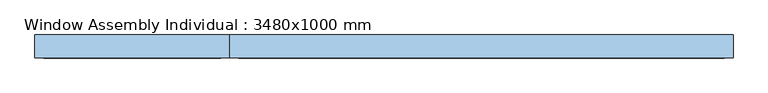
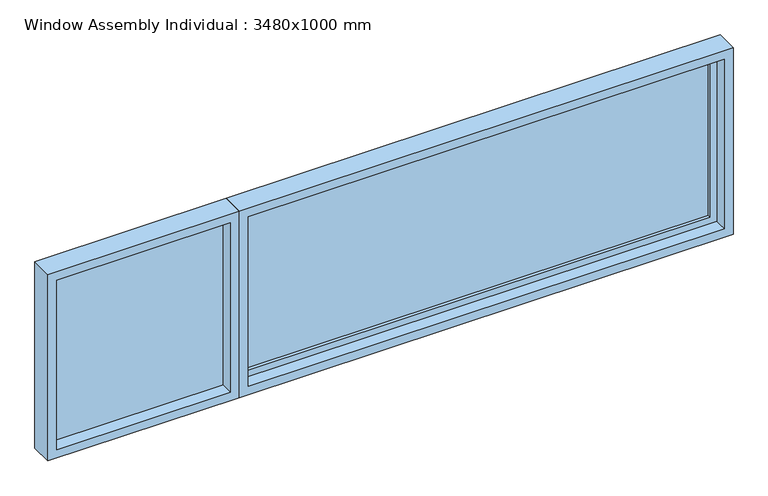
"""IFC4 building model written with IfcOpenShell, lengths in millimetres: window geometry, Window Assembly Individual : 3480x1000 mm."""

from ifc_helpers import new_model, si_unit, frame, origin, place, context, project, spatial, polyline, outline, extrude, faceted_brep, source, transform, mapped, element, save


def window_assembly_individual_3480x1000_mm_c786019a(model_context):
    return source(origin(), model_context, "Body", "SolidModel", [
        extrude(outline(polyline([(830.0, -738.0), (830.0, 1710.0), (1770.0, 1710.0), (1770.0, -738.0), (830.0, -738.0)]), holes=[polyline([(1720.0, -688.0), (1720.0, 1660.0), (880.0, 1660.0), (880.0, -688.0), (1720.0, -688.0)])]), frame((0.0, 140.0, 0.0), z_axis=(0.0, 1.0, 0.0), x_axis=(0.0, 0.0, 1.0)), (0.0, 0.0, 1.0), 50.0),
        extrude(outline(polyline([(1660.0, 155.0), (-688.0, 155.0), (-688.0, 175.0), (1660.0, 175.0), (1660.0, 155.0)])), frame((0.0, 0.0, 880.0), z_axis=(0.0, 0.0, 1.0), x_axis=(1.0, 0.0, 0.0)), (0.0, 0.0, 1.0), 840.0),
        faceted_brep([(1695.0, 75.0, 1755.0), (1695.0, 140.0, 1755.0), (1695.0, 140.0, 845.0), (1695.0, 75.0, 845.0), (1710.0, 140.0, 830.0), (-738.0, 140.0, 830.0), (-738.0, 140.0, 1770.0), (1710.0, 140.0, 1770.0), (-723.0, 140.0, 1755.0), (-723.0, 140.0, 845.0), (-723.0, 75.0, 845.0), (1740.0, 75.0, 1800.0), (-768.0, 75.0, 1800.0), (-768.0, 75.0, 800.0), (1740.0, 75.0, 800.0), (-723.0, 75.0, 1755.0), (1740.0, 190.0, 1800.0), (1740.0, 190.0, 800.0), (-768.0, 190.0, 800.0), (-768.0, 190.0, 1800.0), (1710.0, 190.0, 1770.0), (-738.0, 190.0, 1770.0), (-738.0, 190.0, 830.0), (1710.0, 190.0, 830.0)], [[[0, 1, 2, 3]], [[4, 5, 6, 7], [1, 8, 9, 2]], [[3, 2, 9, 10]], [[11, 12, 13, 14], [3, 10, 15, 0]], [[16, 11, 14, 17]], [[17, 14, 13, 18]], [[17, 18, 19, 16], [20, 21, 22, 23]], [[10, 9, 8, 15]], [[18, 13, 12, 19]], [[5, 22, 21, 6]], [[4, 23, 22, 5]], [[7, 20, 23, 4]], [[15, 8, 1, 0]], [[19, 12, 11, 16]], [[6, 21, 20, 7]]]),
        extrude(outline(polyline([(-813.0, 140.0), (-1695.0, 140.0), (-1695.0, 162.0), (-813.0, 162.0), (-813.0, 140.0)])), frame((0.0, 0.0, 845.0), z_axis=(0.0, 0.0, 1.0), x_axis=(1.0, 0.0, 0.0)), (0.0, 0.0, 1.0), 910.0),
        extrude(outline(polyline([(1800.0, -768.0), (1800.0, -1740.0), (800.0, -1740.0), (800.0, -768.0), (1800.0, -768.0)]), holes=[polyline([(845.0, -813.0), (845.0, -1695.0), (1755.0, -1695.0), (1755.0, -813.0), (845.0, -813.0)])]), frame((0.0, 75.0, 0.0), z_axis=(0.0, 1.0, 0.0), x_axis=(0.0, 0.0, 1.0)), (0.0, 0.0, 1.0), 115.0),
    ])


if __name__ == "__main__":
    model = new_model("IFC4")
    model_context = context("Model", 3, world=origin())
    ifc_project = project(units=[si_unit("LENGTHUNIT", "METRE", prefix="MILLI")], contexts=[model_context])
    site = spatial("IfcSite", under=ifc_project)
    building = spatial("IfcBuilding", under=site)
    placement = place(None, origin())
    window_assembly_individual_3480x1000_mm_shape = window_assembly_individual_3480x1000_mm_c786019a(model_context)
    element("IfcWindow", 1, ObjectType="Window Assembly Individual : 3480x1000 mm", at=placement, inside=building, context=model_context, shape_type="MappedRepresentation", body=[
        mapped(window_assembly_individual_3480x1000_mm_shape, transform((0.0, 0.0, 0.0), x_axis=(1.0, 0.0, 0.0), y_axis=(0.0, 1.0, 0.0), z_axis=(0.0, 0.0, 1.0))),
    ])
    save(model, "model.ifc")
